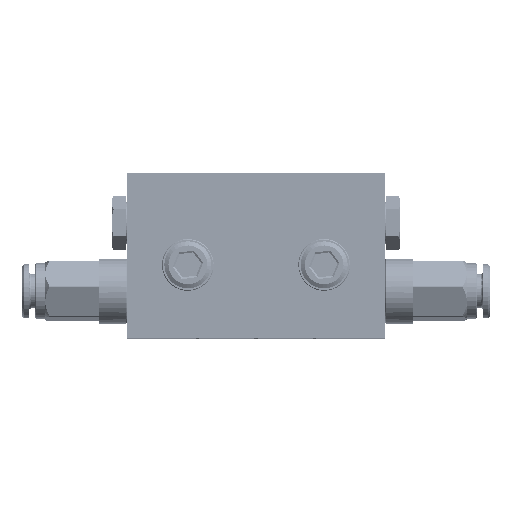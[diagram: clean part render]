
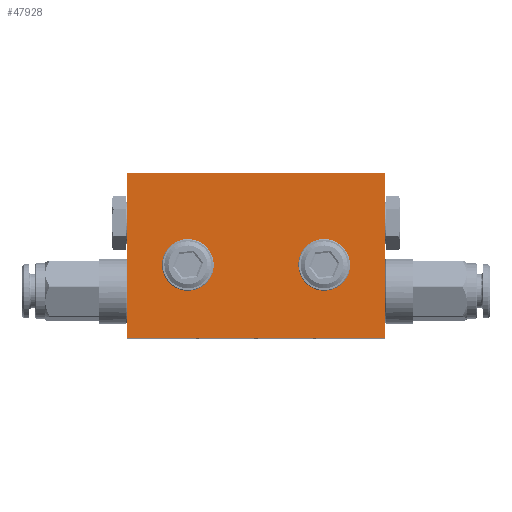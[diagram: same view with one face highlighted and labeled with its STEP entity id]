
A CAD part, top view. The second image highlights one B-rep face of the part: STEP entity #47928.
In plain terms, the highlighted planar face has unit normal (0, 0, 1) as drawn and (0, 0, -1) by its records, which use the part's own axes.
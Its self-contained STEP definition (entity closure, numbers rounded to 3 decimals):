
#2298 = VECTOR ( 'NONE', #28732, 1000. ) ;
#3158 = VERTEX_POINT ( 'NONE', #30025 ) ;
#3310 = CARTESIAN_POINT ( 'NONE',  ( -11.4, -15.5, -4.85 ) ) ;
#4724 = CIRCLE ( 'NONE', #44637, 3.1 ) ;
#5611 = EDGE_CURVE ( 'NONE', #3158, #29967, #29466, .T. ) ;
#6598 = ORIENTED_EDGE ( 'NONE', *, *, #18391, .F. ) ;
#7123 = DIRECTION ( 'NONE',  ( 1., 0., 0. ) ) ;
#7182 = CARTESIAN_POINT ( 'NONE',  ( -27.5, 0., -4.85 ) ) ;
#7731 = VERTEX_POINT ( 'NONE', #33733 ) ;
#7806 = LINE ( 'NONE', #45766, #39390 ) ;
#8244 = CARTESIAN_POINT ( 'NONE',  ( -27.5, 0., -4.85 ) ) ;
#10009 = PLANE ( 'NONE',  #16706 ) ;
#10719 = DIRECTION ( 'NONE',  ( 0., 0., 1. ) ) ;
#11018 = ORIENTED_EDGE ( 'NONE', *, *, #43386, .F. ) ;
#11308 = ORIENTED_EDGE ( 'NONE', *, *, #12502, .F. ) ;
#12502 = EDGE_CURVE ( 'NONE', #36660, #36660, #4724, .T. ) ;
#13179 = AXIS2_PLACEMENT_3D ( 'NONE', #24339, #24573, #31894 ) ;
#16706 = AXIS2_PLACEMENT_3D ( 'NONE', #47472, #10719, #17813 ) ;
#17813 = DIRECTION ( 'NONE',  ( 1., 0., 0. ) ) ;
#18358 = LINE ( 'NONE', #47995, #2298 ) ;
#18391 = EDGE_CURVE ( 'NONE', #7731, #7731, #23401, .T. ) ;
#19563 = DIRECTION ( 'NONE',  ( 0., 1., 0. ) ) ;
#20141 = DIRECTION ( 'NONE',  ( 0., 0., -1. ) ) ;
#21117 = LINE ( 'NONE', #8244, #40630 ) ;
#21238 = EDGE_CURVE ( 'NONE', #26204, #3158, #21117, .T. ) ;
#21352 = ORIENTED_EDGE ( 'NONE', *, *, #5611, .F. ) ;
#23401 = CIRCLE ( 'NONE', #13179, 3.1 ) ;
#24107 = CARTESIAN_POINT ( 'NONE',  ( -14.5, -15.5, -4.85 ) ) ;
#24339 = CARTESIAN_POINT ( 'NONE',  ( 14.5, -15.5, -4.85 ) ) ;
#24573 = DIRECTION ( 'NONE',  ( 0., 0., -1. ) ) ;
#25484 = FACE_BOUND ( 'NONE', #34810, .T. ) ;
#25829 = CARTESIAN_POINT ( 'NONE',  ( 0., -35., -4.85 ) ) ;
#26204 = VERTEX_POINT ( 'NONE', #7182 ) ;
#26904 = VERTEX_POINT ( 'NONE', #44176 ) ;
#28732 = DIRECTION ( 'NONE',  ( -1., 0., 0. ) ) ;
#29466 = LINE ( 'NONE', #25829, #40544 ) ;
#29615 = EDGE_LOOP ( 'NONE', ( #21352, #44260, #11018, #33696 ) ) ;
#29967 = VERTEX_POINT ( 'NONE', #36874 ) ;
#30025 = CARTESIAN_POINT ( 'NONE',  ( -27.5, -35., -4.85 ) ) ;
#31894 = DIRECTION ( 'NONE',  ( -1., 0., 0. ) ) ;
#32813 = FACE_BOUND ( 'NONE', #45293, .T. ) ;
#33696 = ORIENTED_EDGE ( 'NONE', *, *, #46746, .F. ) ;
#33733 = CARTESIAN_POINT ( 'NONE',  ( 11.4, -15.5, -4.85 ) ) ;
#34810 = EDGE_LOOP ( 'NONE', ( #6598 ) ) ;
#36660 = VERTEX_POINT ( 'NONE', #3310 ) ;
#36874 = CARTESIAN_POINT ( 'NONE',  ( 27.5, -35., -4.85 ) ) ;
#39390 = VECTOR ( 'NONE', #19563, 1000. ) ;
#40544 = VECTOR ( 'NONE', #7123, 1000. ) ;
#40630 = VECTOR ( 'NONE', #41585, 1000. ) ;
#41585 = DIRECTION ( 'NONE',  ( 0., -1., 0. ) ) ;
#43158 = DIRECTION ( 'NONE',  ( 1., 0., 0. ) ) ;
#43386 = EDGE_CURVE ( 'NONE', #26904, #26204, #18358, .T. ) ;
#44176 = CARTESIAN_POINT ( 'NONE',  ( 27.5, 0., -4.85 ) ) ;
#44260 = ORIENTED_EDGE ( 'NONE', *, *, #21238, .F. ) ;
#44285 = FACE_OUTER_BOUND ( 'NONE', #29615, .T. ) ;
#44637 = AXIS2_PLACEMENT_3D ( 'NONE', #24107, #20141, #43158 ) ;
#45293 = EDGE_LOOP ( 'NONE', ( #11308 ) ) ;
#45766 = CARTESIAN_POINT ( 'NONE',  ( 27.5, 0., -4.85 ) ) ;
#46746 = EDGE_CURVE ( 'NONE', #29967, #26904, #7806, .T. ) ;
#47472 = CARTESIAN_POINT ( 'NONE',  ( 0., 0., -4.85 ) ) ;
#47928 = ADVANCED_FACE ( 'NONE', ( #32813, #25484, #44285 ), #10009, .F. ) ;
#47995 = CARTESIAN_POINT ( 'NONE',  ( 0., 0., -4.85 ) ) ;
